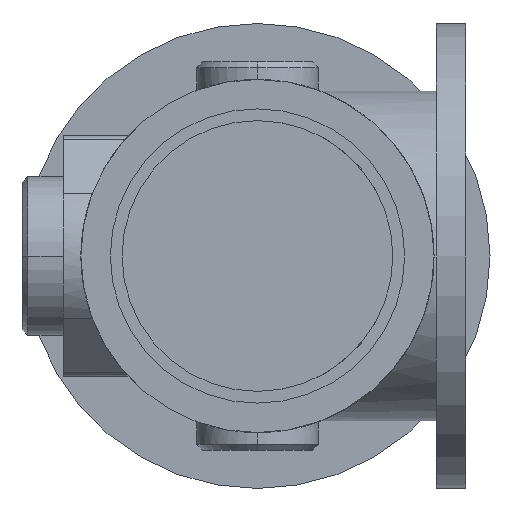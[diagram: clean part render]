
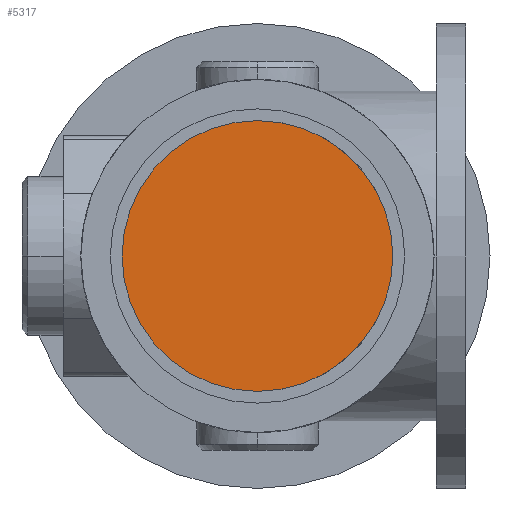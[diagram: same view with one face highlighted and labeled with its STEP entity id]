
A CAD part, front view. The second image highlights one B-rep face of the part: STEP entity #5317.
In plain terms, the highlighted planar face has unit normal (0, -1, 0).
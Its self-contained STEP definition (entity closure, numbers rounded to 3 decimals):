
#2598=CARTESIAN_POINT('',(0.,590.,0.));
#2599=DIRECTION('',(0.,-1.,0.));
#2600=DIRECTION('',(1.,0.,0.));
#2601=AXIS2_PLACEMENT_3D('',#2598,#2599,#2600);
#2606=CARTESIAN_POINT('',(0.,590.,0.));
#2607=DIRECTION('',(0.,-1.,0.));
#2608=DIRECTION('',(-1.,0.,0.));
#2609=AXIS2_PLACEMENT_3D('',#2606,#2607,#2608);
#3234=CARTESIAN_POINT('',(115.,590.,0.));
#3235=CARTESIAN_POINT('',(-115.,590.,0.));
#3236=VERTEX_POINT('',#3234);
#3237=VERTEX_POINT('',#3235);
#5308=CARTESIAN_POINT('',(0.,590.,0.));
#5309=DIRECTION('',(0.,-1.,0.));
#5310=DIRECTION('',(1.,0.,0.));
#5311=AXIS2_PLACEMENT_3D('',#5308,#5309,#5310);
#5312=PLANE('',#5311);
#5313=ORIENTED_EDGE('',*,*,#5281,.F.);
#5314=ORIENTED_EDGE('',*,*,#5295,.F.);
#5315=EDGE_LOOP('',(#5313,#5314));
#5316=FACE_OUTER_BOUND('',#5315,.F.);
#2602=CIRCLE('',#2601,115.);
#2610=CIRCLE('',#2609,115.);
#5281=EDGE_CURVE('',#3236,#3237,#2602,.T.);
#5295=EDGE_CURVE('',#3237,#3236,#2610,.T.);
#5317=ADVANCED_FACE('',(#5316),#5312,.T.);
